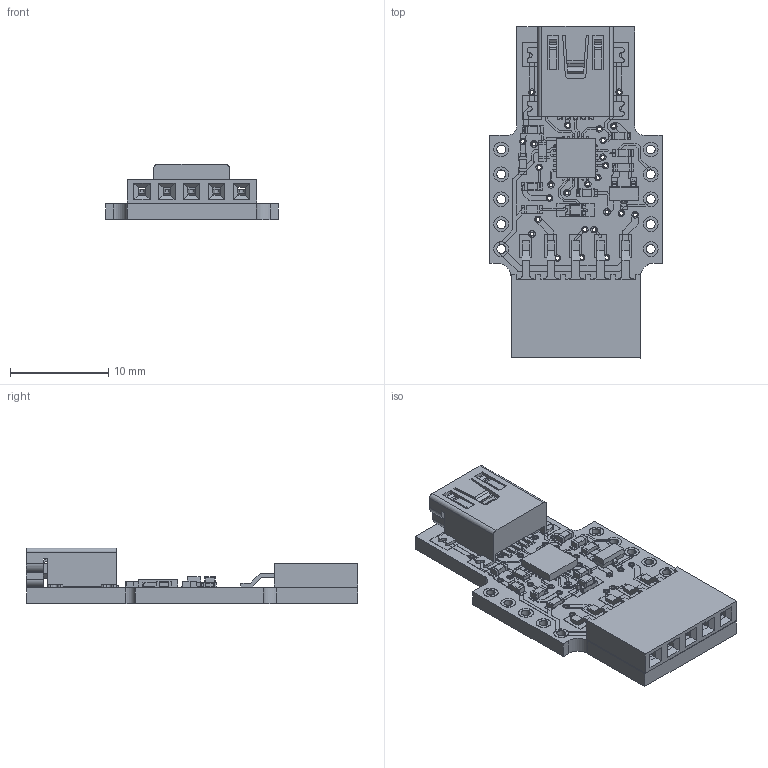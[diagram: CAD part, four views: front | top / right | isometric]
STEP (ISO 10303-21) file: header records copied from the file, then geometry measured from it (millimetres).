
FILE_DESCRIPTION (( 'STEP AP214' ), '1' );
FILE_NAME ('uUSB-PA5-II_simplestepmodel_REV3.0.STEP', '2025-04-28T08:03:11', ( '' ), ( '' ), 'SwSTEP 2.0', 'SolidWorks 2021', '' );
FILE_SCHEMA (( 'AUTOMOTIVE_DESIGN' ));
Length unit declared in the file: millimetre
Products named in the file (29): SW3DPS-SOT-23-DEFAULT^Q1_uUSB-PA5-REV3.0a-Components22; ssw-xx-x_-S^SMH-105-02-X-S_H1_uUSB-PA5-REV3.0a-Components22; User Library-RES_0603L_RES_0603_Body_1^User Library-RES_0603L; C2^uUSB-PA5-REV3.0a-Components22; uUSB-PA5-II_simplestepmodel_REV3.0; R1^uUSB-PA5-REV3.0a-Components22; C-8-3_1st row (Default)^SMH-105-02-X-S_H1_uUSB-PA5-REV3.0a-Components22; Q1^uUSB-PA5-REV3.0a-Components22; User Library-RES_0603L; C5^uUSB-PA5-REV3.0a-Components22; User Library-RES_0603L_RES_0603_Lead_1^User Library-RES_0603L; uUSB-PA5-REV3.0a-Components22; uUSB-PA5-REV3.0aOutLine; SMH-105-02-X-S^H1_uUSB-PA5-REV3.0a-Components22; C4^uUSB-PA5-REV3.0a-Components22; LED1^uUSB-PA5-REV3.0a-Components22; R3^uUSB-PA5-REV3.0a-Components22; User Library-led_0805LED0805_blue^LED1_uUSB-PA5-REV3.0a-Components22; Extruded^9950061008_U1_uUSB-PA5-REV3.0a-Components22; CN1^uUSB-PA5-REV3.0a-Components22; R2^uUSB-PA5-REV3.0a-Components22; C3^uUSB-PA5-REV3.0a-Components22; User Library-cap_0603_lowprofile; Samtec-MUSB-05-S-B-SM-A^CN1_uUSB-PA5-REV3.0a-Components22; C1^uUSB-PA5-REV3.0a-Components22; H1^uUSB-PA5-REV3.0a-Components22; 9950061008^U1_uUSB-PA5-REV3.0a-Components22; U1^uUSB-PA5-REV3.0a-Components22; C6^uUSB-PA5-REV3.0a-Components22
Assembly tree (40 placements, depth 5):
  uUSB-PA5-II_simplestepmodel_REV3.0
    uUSB-PA5-REV3.0aOutLine
    uUSB-PA5-REV3.0a-Components22
      CN1^uUSB-PA5-REV3.0a-Components22
        Samtec-MUSB-05-S-B-SM-A^CN1_uUSB-PA5-REV3.0a-Components22
      H1^uUSB-PA5-REV3.0a-Components22
        SMH-105-02-X-S^H1_uUSB-PA5-REV3.0a-Components22
          C-8-3_1st row (Default)^SMH-105-02-X-S_H1_uUSB-PA5-REV3.0a-Components22  x5
          ssw-xx-x_-S^SMH-105-02-X-S_H1_uUSB-PA5-REV3.0a-Components22
      LED1^uUSB-PA5-REV3.0a-Components22
        User Library-led_0805LED0805_blue^LED1_uUSB-PA5-REV3.0a-Components22
      R2^uUSB-PA5-REV3.0a-Components22
        User Library-RES_0603L
          User Library-RES_0603L_RES_0603_Lead_1^User Library-RES_0603L  x2
          User Library-RES_0603L_RES_0603_Body_1^User Library-RES_0603L
      R1^uUSB-PA5-REV3.0a-Components22
        User Library-RES_0603L
          User Library-RES_0603L_RES_0603_Lead_1^User Library-RES_0603L  x2
          User Library-RES_0603L_RES_0603_Body_1^User Library-RES_0603L
      C2^uUSB-PA5-REV3.0a-Components22
        User Library-cap_0603_lowprofile
      C3^uUSB-PA5-REV3.0a-Components22
        User Library-cap_0603_lowprofile
      Q1^uUSB-PA5-REV3.0a-Components22
        SW3DPS-SOT-23-DEFAULT^Q1_uUSB-PA5-REV3.0a-Components22
      C1^uUSB-PA5-REV3.0a-Components22
        User Library-cap_0603_lowprofile
      C4^uUSB-PA5-REV3.0a-Components22
        User Library-cap_0603_lowprofile
      C5^uUSB-PA5-REV3.0a-Components22
        User Library-cap_0603_lowprofile
      R3^uUSB-PA5-REV3.0a-Components22
        User Library-RES_0603L
          User Library-RES_0603L_RES_0603_Lead_1^User Library-RES_0603L  x2
          User Library-RES_0603L_RES_0603_Body_1^User Library-RES_0603L
      U1^uUSB-PA5-REV3.0a-Components22
        9950061008^U1_uUSB-PA5-REV3.0a-Components22
          Extruded^9950061008_U1_uUSB-PA5-REV3.0a-Components22
      C6^uUSB-PA5-REV3.0a-Components22
        User Library-cap_0603_lowprofile
Bounding box: 17.56 x 33.83 x 5.67 mm (x, y, z)
Volume: 1209 mm3; surface area: 3372.9 mm2
Topology: 222 solids, 222 shells, 3295 faces, 8334 edges, 5460 vertices
Faces by surface type: plane 2122, cylinder 1117, sphere 52, cone 4
Entity records: 120019 total; most frequent: DIRECTION 15136, CARTESIAN_POINT 15064, ORIENTED_EDGE 14548, EDGE_CURVE 7274, VECTOR 5272, LINE 5272, AXIS2_PLACEMENT_3D 4932, VERTEX_POINT 4828
